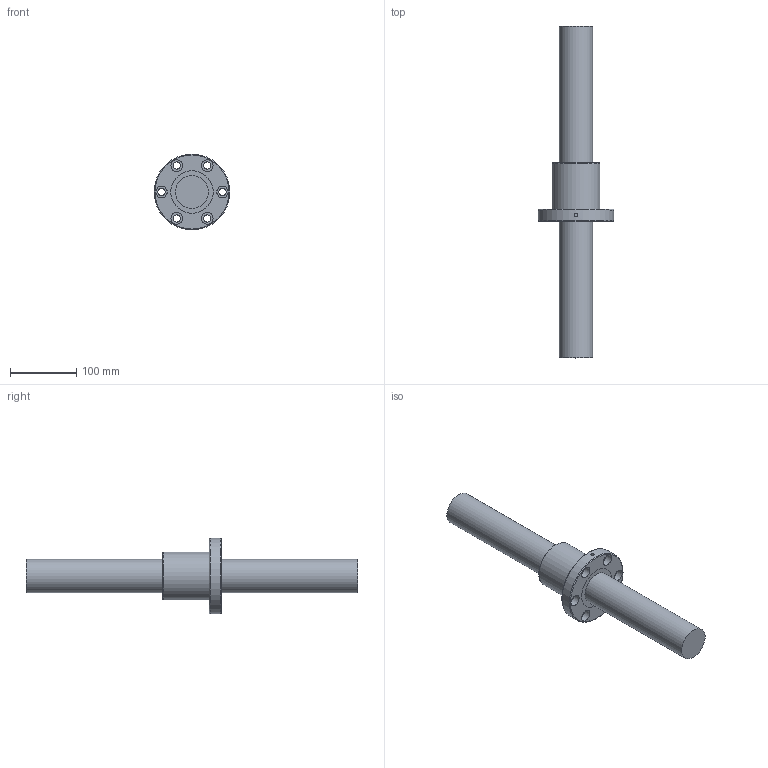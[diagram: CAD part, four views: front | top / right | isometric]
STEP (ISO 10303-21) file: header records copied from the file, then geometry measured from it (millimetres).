
FILE_DESCRIPTION(/* description */ (''),/* implementation_level */ '2;1');
FILE_NAME(/* name */ '5010.stp',/* time_stamp */ '2014-07-14T15:37:50+08:00',/* author */ (''),/* organization */ (''),/* preprocessor_version */ 'ST-DEVELOPER v11',/* originating_system */ 'SIEMENS UGS NX 6.0',/* authorisation */ '');
FILE_SCHEMA (('CONFIG_CONTROL_DESIGN'));
Length unit declared in the file: millimetre
Products named in the file (1): kcc27CCoviu
Bounding box: 114 x 500 x 114 mm (x, y, z)
Volume: 1257438.3 mm3; surface area: 148024.7 mm2
Topology: 4 solids, 4 shells, 44 faces, 78 edges, 51 vertices
Faces by surface type: cylinder 23, plane 18, torus 3
Full cylindrical faces by diameter (mm): 5 x1, 11 x6, 17.5 x6, 50 x4, 64 x4, 72 x1, 114 x1
Entity records: 1104 total; most frequent: CARTESIAN_POINT 200, DIRECTION 186, EDGE_LOOP 98, ORIENTED_EDGE 98, FACE_BOUND 95, AXIS2_PLACEMENT_3D 93, VERTEX_POINT 49, EDGE_CURVE 49
